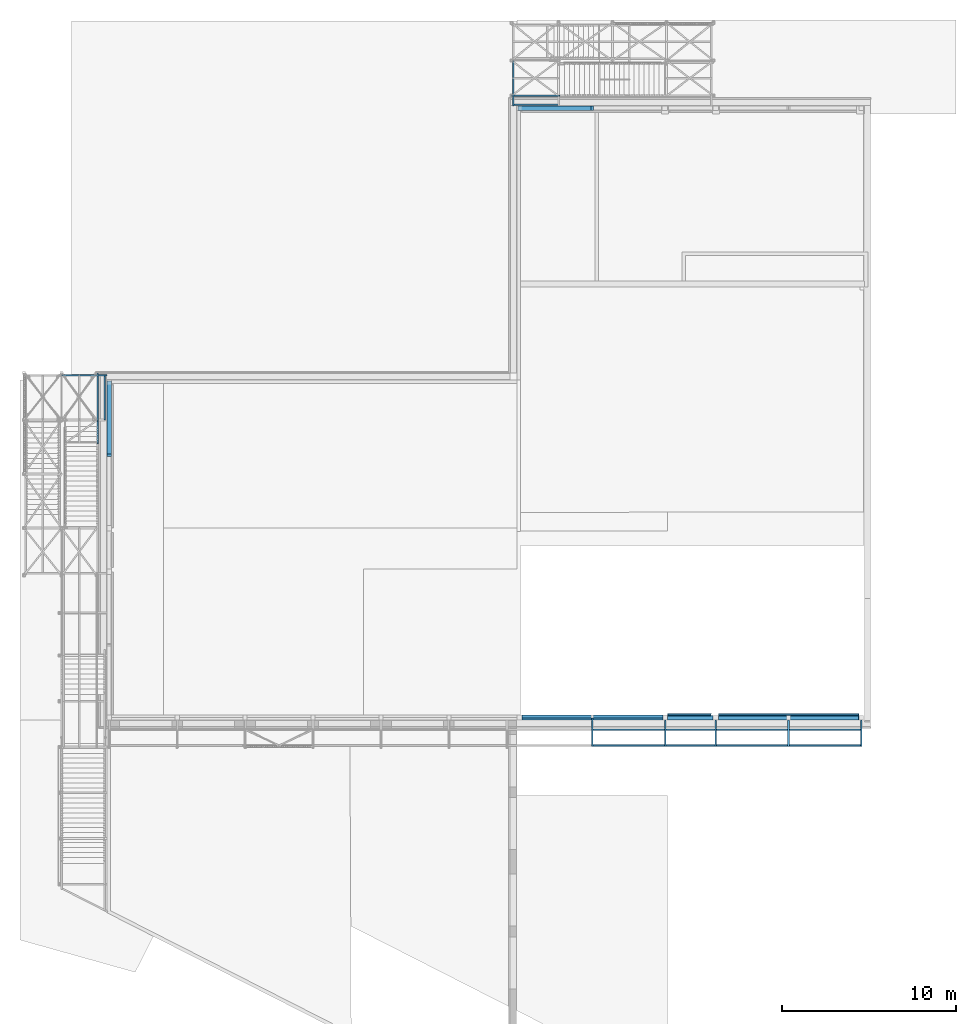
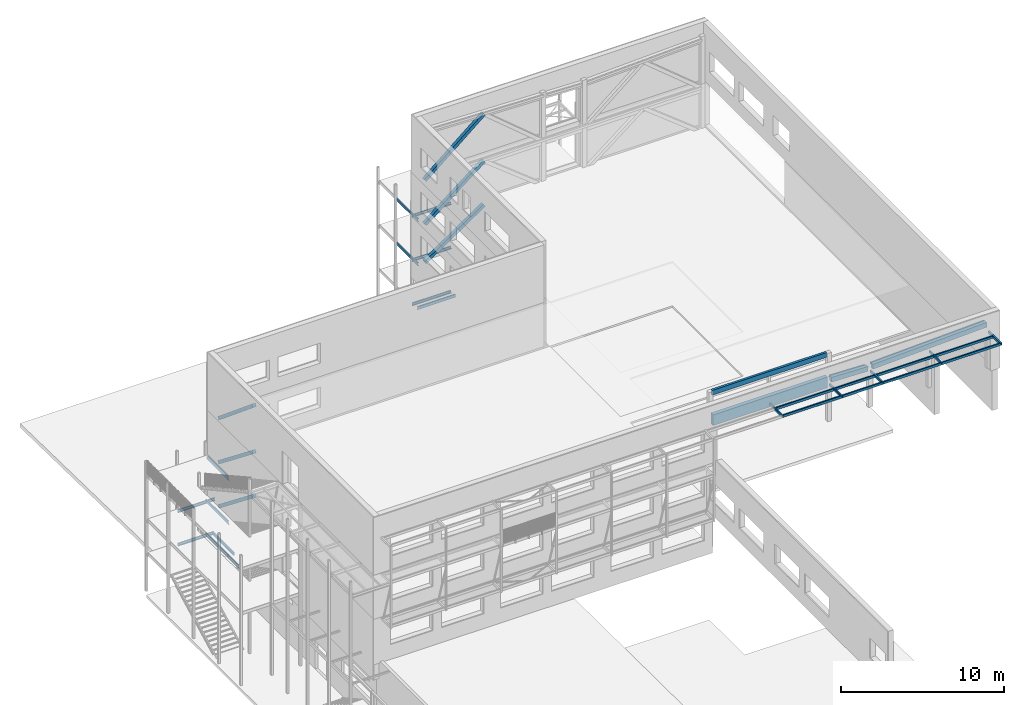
# One storey, part 29 of 78: 32 beams, 6 members, 38 elements without a shape of their own.
"""IFC2X3 building model written with IfcOpenShell, lengths in millimetres."""

from ifc_helpers import new_model, si_unit, frame, origin_with_axes, origin_2d_with_axis, place, context, subcontext, project, spatial, polyline, rectangle, hollow_rectangle, u_section, outline, extrude, boolean, clip, halfspace, material, type_object, element, aggregate, save


model = new_model("IFC2X3")

# Units and contexts
model_context = context("Model", 3, precision=1e-05, world=origin_with_axes())
body_context = subcontext(model_context, "Body", "Model", "MODEL_VIEW")
ifc_project = project(units=[si_unit("LENGTHUNIT", "METRE", prefix="MILLI"), si_unit("AREAUNIT", "SQUARE_METRE"), si_unit("VOLUMEUNIT", "CUBIC_METRE"), si_unit("MASSUNIT", "GRAM", prefix="KILO"), si_unit("TIMEUNIT", "SECOND"), si_unit("PLANEANGLEUNIT", "RADIAN"), si_unit("SOLIDANGLEUNIT", "STERADIAN"), si_unit("THERMODYNAMICTEMPERATUREUNIT", "DEGREE_CELSIUS"), si_unit("LUMINOUSINTENSITYUNIT", "LUMEN")], contexts=[model_context])

# Site, building, storey
site_placement = place(None, origin_with_axes())
site = spatial("IfcSite", under=ifc_project, at=site_placement, Name="Site", CompositionType="ELEMENT")
building_placement = place(site_placement, origin_with_axes())
building = spatial("IfcBuilding", under=site, at=building_placement, Name="Undefined", CompositionType="ELEMENT")
storey_placement = place(building_placement, origin_with_axes())
storey = spatial("IfcBuildingStorey", under=building, at=storey_placement, Name="Undefined", CompositionType="ELEMENT", Elevation=0.0)

# Assembly, beam
assembly_1_placement = place(storey_placement, origin_with_axes())
assembly_1 = element("IfcElementAssembly", 1, at=assembly_1_placement, inside=storey, Name="POUTRE", AssemblyPlace="NOTDEFINED", PredefinedType="RIGID_FRAME")
ifc_material_1 = material(Name="STEEL/S275JR")
beam_type_1 = type_object("IfcBeamType", Name="UPN220", PredefinedType="NOTDEFINED")
beam_1_placement = place(assembly_1_placement, frame((-7326.43, 28225.0, 149960.04), z_axis=(0.0, 0.0, -1.0), x_axis=(1.0, 0.0, 0.0)))
beam_1 = element("IfcBeam", 2, at=beam_1_placement, type_object=beam_type_1, material=ifc_material_1, Name="SOLIVE", ObjectType="UPN220", context=body_context, shape_type="SweptSolid", body=[
    extrude(u_section(Depth=220.0, FlangeWidth=80.0, WebThickness=9.0, FlangeThickness=12.5, FilletRadius=12.5, EdgeRadius=6.5, FlangeSlope=0.0798299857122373, at=origin_2d_with_axis()), frame((2685.0, 0.0, 0.0), z_axis=(-1.0, 0.0, 0.0), x_axis=(0.0, -1.0, 0.0)), (0.0, 0.0, 1.0), 2685.0),
])
aggregate(assembly_1, [beam_1])

assembly_2_placement = place(storey_placement, origin_with_axes())
assembly_2 = element("IfcElementAssembly", 3, at=assembly_2_placement, inside=storey, AssemblyPlace="NOTDEFINED", PredefinedType="RIGID_FRAME")
ifc_material_2 = material(Name="STEEL/S235JR")
beam_2_placement = place(assembly_2_placement, frame((-31142.8600000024, 10073.7142857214, 153260.039999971), z_axis=(0.0, 0.0, 1.0), x_axis=(0.0, 1.0, 0.0)))
beam_2 = element("IfcBeam", 4, at=beam_2_placement, type_object=beam_type_1, material=ifc_material_2, Name="LIMON", ObjectType="UPN220", context=body_context, shape_type="Clipping", body=[
    clip(extrude(u_section(Depth=220.0, FlangeWidth=80.0, WebThickness=9.0, FlangeThickness=12.5, FilletRadius=12.5, EdgeRadius=6.5, FlangeSlope=0.0798299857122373, at=origin_2d_with_axis()), frame((2734.28571428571, 0.0, 0.0), z_axis=(-1.0, 0.0, 0.0), x_axis=(0.0, -1.0, 0.0)), (0.0, 0.0, 1.0), 2791.31), halfspace(frame((-5.94641824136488e-06, 2.39502696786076e-07, 109.999999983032), z_axis=(0.968308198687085, 0.0, -0.249758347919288), x_axis=(0.0, 1.0, 0.0)), True)),
])
aggregate(assembly_2, [beam_2])

assembly_3_placement = place(storey_placement, origin_with_axes())
assembly_3 = element("IfcElementAssembly", 5, at=assembly_3_placement, inside=storey, AssemblyPlace="NOTDEFINED", PredefinedType="RIGID_FRAME")
beam_3_placement = place(assembly_3_placement, frame((-31142.8600000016, 10073.714285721, 156560.039999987), z_axis=(0.0, 0.0, 1.0), x_axis=(0.0, 1.0, 0.0)))
beam_3 = element("IfcBeam", 6, at=beam_3_placement, type_object=beam_type_1, material=ifc_material_2, Name="LIMON", ObjectType="UPN220", context=body_context, shape_type="CSG", body=[
    boolean("DIFFERENCE", boolean("DIFFERENCE", boolean("DIFFERENCE", boolean("DIFFERENCE", extrude(u_section(Depth=220.0, FlangeWidth=80.0, WebThickness=9.0, FlangeThickness=12.5, FilletRadius=12.5, EdgeRadius=6.5, FlangeSlope=0.0798299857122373, at=origin_2d_with_axis()), frame((2734.28571428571, 0.0, 0.0), z_axis=(-1.0, 0.0, 0.0), x_axis=(0.0, -1.0, 0.0)), (0.0, 0.0, 1.0), 2791.31), extrude(outline(polyline([(0.0, 0.0), (81.0, 0.0), (81.0, 42.5000000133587), (0.0, 42.5000000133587), (0.0, 0.0)])), frame((2650.28571427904, 50.0, -77.4999999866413), z_axis=(0.0, -1.0, 0.0), x_axis=(-1.0, 0.0, 0.0)), (0.0, 0.0, 1.0), 100.0)), extrude(outline(polyline([(0.0, 0.0), (81.0, 0.0), (81.0, 42.5000000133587), (0.0, 42.5000000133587), (0.0, 0.0)])), frame((2650.28571427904, -50.0, 77.5000000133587), z_axis=(0.0, 1.0, 0.0), x_axis=(-1.0, 0.0, 0.0)), (0.0, 0.0, 1.0), 100.0)), halfspace(frame((2640.28571427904, 0.0, 210.0), z_axis=(1.0, 0.0, 0.0), x_axis=(0.0, 1.0, 0.0)), False)), halfspace(frame((-5.94641824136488e-06, 2.39502696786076e-07, 109.999999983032), z_axis=(0.968308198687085, 0.0, -0.249758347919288), x_axis=(0.0, 1.0, 0.0)), True)),
])
aggregate(assembly_3, [beam_3])

assembly_4_placement = place(storey_placement, origin_with_axes())
assembly_4 = element("IfcElementAssembly", 7, at=assembly_4_placement, inside=storey, AssemblyPlace="NOTDEFINED", PredefinedType="RIGID_FRAME")
beam_4_placement = place(assembly_4_placement, frame((-7401.43000000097, 28722.9999999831, 149960.040000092), z_axis=(0.0, 0.0, 1.0), x_axis=(1.0, 0.0, 0.0)))
beam_4 = element("IfcBeam", 8, at=beam_4_placement, type_object=beam_type_1, material=ifc_material_2, Name="LIMON", ObjectType="UPN220", context=body_context, shape_type="Clipping", body=[
    clip(extrude(u_section(Depth=220.0, FlangeWidth=80.0, WebThickness=9.0, FlangeThickness=12.5, FilletRadius=12.5, EdgeRadius=6.5, FlangeSlope=0.0798299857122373, at=origin_2d_with_axis()), frame((2791.31463436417, 0.0, 0.0), z_axis=(-1.0, 0.0, 0.0), x_axis=(0.0, -1.0, 0.0)), (0.0, 0.0, 1.0), 2791.31), halfspace(frame((2734.28571450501, 1.4319084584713e-08, 109.999999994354), z_axis=(-0.968308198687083, 0.0, -0.249758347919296), x_axis=(0.0, -1.0, 0.0)), True)),
])
aggregate(assembly_4, [beam_4])

assembly_5_placement = place(storey_placement, origin_with_axes())
assembly_5 = element("IfcElementAssembly", 9, at=assembly_5_placement, inside=storey, AssemblyPlace="NOTDEFINED", PredefinedType="RIGID_FRAME")
beam_5_placement = place(assembly_5_placement, frame((-7401.43000000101, 28722.9999999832, 153260.040000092), z_axis=(0.0, 0.0, 1.0), x_axis=(1.0, 0.0, 0.0)))
beam_5 = element("IfcBeam", 10, at=beam_5_placement, type_object=beam_type_1, material=ifc_material_2, Name="LIMON", ObjectType="UPN220", context=body_context, shape_type="Clipping", body=[
    clip(extrude(u_section(Depth=220.0, FlangeWidth=80.0, WebThickness=9.0, FlangeThickness=12.5, FilletRadius=12.5, EdgeRadius=6.5, FlangeSlope=0.0798299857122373, at=origin_2d_with_axis()), frame((2791.31463436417, 0.0, 0.0), z_axis=(-1.0, 0.0, 0.0), x_axis=(0.0, -1.0, 0.0)), (0.0, 0.0, 1.0), 2791.31), halfspace(frame((2734.28571450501, 1.4319084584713e-08, 109.999999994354), z_axis=(-0.968308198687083, 0.0, -0.249758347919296), x_axis=(0.0, -1.0, 0.0)), True)),
])
aggregate(assembly_5, [beam_5])

assembly_6_placement = place(storey_placement, origin_with_axes())
assembly_6 = element("IfcElementAssembly", 11, at=assembly_6_placement, inside=storey, AssemblyPlace="NOTDEFINED", PredefinedType="RIGID_FRAME")
beam_6_placement = place(assembly_6_placement, frame((-7401.43000000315, 28722.9999999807, 156560.040000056), z_axis=(0.0, 0.0, 1.0), x_axis=(1.0, 0.0, 0.0)))
beam_6 = element("IfcBeam", 12, at=beam_6_placement, type_object=beam_type_1, material=ifc_material_2, Name="LIMON", ObjectType="UPN220", context=body_context, shape_type="Clipping", body=[
    clip(extrude(u_section(Depth=220.0, FlangeWidth=80.0, WebThickness=9.0, FlangeThickness=12.5, FilletRadius=12.5, EdgeRadius=6.5, FlangeSlope=0.0798299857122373, at=origin_2d_with_axis()), frame((2791.31463436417, 0.0, 0.0), z_axis=(-1.0, 0.0, 0.0), x_axis=(0.0, -1.0, 0.0)), (0.0, 0.0, 1.0), 2791.31), halfspace(frame((2734.28571450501, 1.4319084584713e-08, 109.999999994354), z_axis=(-0.968308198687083, 0.0, -0.249758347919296), x_axis=(0.0, -1.0, 0.0)), True)),
])
aggregate(assembly_6, [beam_6])

assembly_7_placement = place(storey_placement, origin_with_axes())
assembly_7 = element("IfcElementAssembly", 13, at=assembly_7_placement, inside=storey, Name="POUTRE", AssemblyPlace="NOTDEFINED", PredefinedType="RIGID_FRAME")
beam_7_placement = place(assembly_7_placement, frame((-7286.43, 28135.0, 156560.04), z_axis=(0.0, 0.0, 1.0), x_axis=(0.0, 1.0, 0.0)))
beam_7 = element("IfcBeam", 14, at=beam_7_placement, type_object=beam_type_1, material=ifc_material_1, Name="POUTRE", ObjectType="UPN220", context=body_context, shape_type="SweptSolid", body=[
    extrude(u_section(Depth=220.0, FlangeWidth=80.0, WebThickness=9.0, FlangeThickness=12.5, FilletRadius=12.5, EdgeRadius=6.5, FlangeSlope=0.0798299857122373, at=origin_2d_with_axis()), frame((2613.00000000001, 0.0, 0.0), z_axis=(-1.0, 0.0, 0.0), x_axis=(0.0, -1.0, 0.0)), (0.0, 0.0, 1.0), 2613.0),
])
aggregate(assembly_7, [beam_7])

assembly_8_placement = place(storey_placement, origin_with_axes())
assembly_8 = element("IfcElementAssembly", 15, at=assembly_8_placement, inside=storey, Name="POUTRE", AssemblyPlace="NOTDEFINED", PredefinedType="RIGID_FRAME")
beam_8_placement = place(assembly_8_placement, frame((-7286.43, 28135.0, 153260.04), z_axis=(0.0, 0.0, 1.0), x_axis=(0.0, 1.0, 0.0)))
beam_8 = element("IfcBeam", 16, at=beam_8_placement, type_object=beam_type_1, material=ifc_material_1, Name="POUTRE", ObjectType="UPN220", context=body_context, shape_type="SweptSolid", body=[
    extrude(u_section(Depth=220.0, FlangeWidth=80.0, WebThickness=9.0, FlangeThickness=12.5, FilletRadius=12.5, EdgeRadius=6.5, FlangeSlope=0.0798299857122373, at=origin_2d_with_axis()), frame((2613.00000000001, 0.0, 0.0), z_axis=(-1.0, 0.0, 0.0), x_axis=(0.0, -1.0, 0.0)), (0.0, 0.0, 1.0), 2613.0),
])
aggregate(assembly_8, [beam_8])

assembly_9_placement = place(storey_placement, origin_with_axes())
assembly_9 = element("IfcElementAssembly", 17, at=assembly_9_placement, inside=storey, AssemblyPlace="NOTDEFINED", PredefinedType="RIGID_FRAME")
beam_9_placement = place(assembly_9_placement, frame((-30736.43, 12733.0, 150760.04), z_axis=(0.0, 0.0, 1.0), x_axis=(0.0, -1.0, 0.0)))
beam_9 = element("IfcBeam", 18, at=beam_9_placement, type_object=beam_type_1, material=ifc_material_1, Name="SOLIVE", ObjectType="UPN220", context=body_context, shape_type="SweptSolid", body=[
    extrude(u_section(Depth=220.0, FlangeWidth=80.0, WebThickness=9.0, FlangeThickness=12.5, FilletRadius=12.5, EdgeRadius=6.5, FlangeSlope=0.0798299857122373, at=origin_2d_with_axis()), frame((2625.0, 0.0, 0.0), z_axis=(-1.0, 0.0, 0.0), x_axis=(0.0, -1.0, 0.0)), (0.0, 0.0, 1.0), 2625.0),
])
aggregate(assembly_9, [beam_9])

assembly_10_placement = place(storey_placement, origin_with_axes())
assembly_10 = element("IfcElementAssembly", 19, at=assembly_10_placement, inside=storey, AssemblyPlace="NOTDEFINED", PredefinedType="RIGID_FRAME")
beam_10_placement = place(assembly_10_placement, frame((-31142.8599999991, 8800.84345047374, 150760.040107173), z_axis=(0.0, 0.0, 1.0), x_axis=(0.0, 1.0, 0.0)))
beam_10 = element("IfcBeam", 20, at=beam_10_placement, type_object=beam_type_1, material=ifc_material_2, Name="LIMON", ObjectType="UPN220", context=body_context, shape_type="Clipping", body=[
    clip(extrude(u_section(Depth=220.0, FlangeWidth=80.0, WebThickness=9.0, FlangeThickness=12.5, FilletRadius=12.5, EdgeRadius=6.5, FlangeSlope=0.0798299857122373, at=origin_2d_with_axis()), frame((1299.15654952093, 0.0, 0.0), z_axis=(-1.0, 0.0, 0.0), x_axis=(0.0, -1.0, 0.0)), (0.0, 0.0, 1.0), 1354.34), halfspace(frame((-5.94641824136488e-06, 2.39502696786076e-07, 109.999999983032), z_axis=(0.970238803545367, 0.0, -0.242150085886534), x_axis=(0.0, 1.0, 0.0)), True)),
])
aggregate(assembly_10, [beam_10])

assembly_11_placement = place(storey_placement, origin_with_axes())
assembly_11 = element("IfcElementAssembly", 21, at=assembly_11_placement, inside=storey, AssemblyPlace="NOTDEFINED", PredefinedType="RIGID_FRAME")
beam_11_placement = place(assembly_11_placement, frame((-31142.86, 12808.0, 150760.04), z_axis=(0.0, 0.0, -1.0), x_axis=(0.0, -1.0, 0.0)))
beam_11 = element("IfcBeam", 22, at=beam_11_placement, type_object=beam_type_1, material=ifc_material_1, Name="SOLIVE", ObjectType="UPN220", context=body_context, shape_type="SweptSolid", body=[
    extrude(u_section(Depth=220.0, FlangeWidth=80.0, WebThickness=9.0, FlangeThickness=12.5, FilletRadius=12.5, EdgeRadius=6.5, FlangeSlope=0.0798299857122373, at=origin_2d_with_axis()), frame((2699.99999999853, 0.0, 0.0), z_axis=(-1.0, 0.0, 0.0), x_axis=(0.0, -1.0, 0.0)), (0.0, 0.0, 1.0), 2700.0),
])
aggregate(assembly_11, [beam_11])

assembly_12_placement = place(storey_placement, origin_with_axes())
assembly_12 = element("IfcElementAssembly", 23, at=assembly_12_placement, inside=storey, AssemblyPlace="NOTDEFINED", PredefinedType="RIGID_FRAME")
beam_12_placement = place(assembly_12_placement, frame((-33216.43, 12693.0, 150760.04), z_axis=(0.0, 0.0, 1.0), x_axis=(1.0, 0.0, 0.0)))
beam_12 = element("IfcBeam", 24, at=beam_12_placement, type_object=beam_type_1, material=ifc_material_1, Name="SOLIVE", ObjectType="UPN220", context=body_context, shape_type="SweptSolid", body=[
    extrude(u_section(Depth=220.0, FlangeWidth=80.0, WebThickness=9.0, FlangeThickness=12.5, FilletRadius=12.5, EdgeRadius=6.5, FlangeSlope=0.0798299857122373, at=origin_2d_with_axis()), frame((2486.43, 0.0, 0.0), z_axis=(-1.0, 0.0, 0.0), x_axis=(0.0, -1.0, 0.0)), (0.0, 0.0, 1.0), 2486.43),
])
aggregate(assembly_12, [beam_12])

assembly_13_placement = place(storey_placement, origin_with_axes())
assembly_13 = element("IfcElementAssembly", 25, at=assembly_13_placement, inside=storey, Name="STAB", AssemblyPlace="NOTDEFINED", PredefinedType="RIGID_FRAME")
beam_13_placement = place(assembly_13_placement, frame((-33216.43, 12693.0, 153260.04), z_axis=(0.0, 0.0, 1.0), x_axis=(1.0, 0.0, 0.0)))
beam_13 = element("IfcBeam", 26, at=beam_13_placement, type_object=beam_type_1, material=ifc_material_1, Name="SOLIVE", ObjectType="UPN220", context=body_context, shape_type="SweptSolid", body=[
    extrude(u_section(Depth=220.0, FlangeWidth=80.0, WebThickness=9.0, FlangeThickness=12.5, FilletRadius=12.5, EdgeRadius=6.5, FlangeSlope=0.0798299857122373, at=origin_2d_with_axis()), frame((2612.98999999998, 0.0, 0.0), z_axis=(-1.0, 0.0, 0.0), x_axis=(0.0, -1.0, 0.0)), (0.0, 0.0, 1.0), 2612.99),
])
aggregate(assembly_13, [beam_13])

assembly_14_placement = place(storey_placement, origin_with_axes())
assembly_14 = element("IfcElementAssembly", 27, at=assembly_14_placement, inside=storey, Name="POUTRE", AssemblyPlace="NOTDEFINED", PredefinedType="NOTDEFINED")
ifc_material_3 = material(Name="TIMBER/CHENE")
beam_type_2 = type_object("IfcBeamType", Name="160*100", PredefinedType="NOTDEFINED")
beam_14_placement = place(assembly_14_placement, frame((4064.09190886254, -6804.99981568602, 162912.822699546), z_axis=(0.0309663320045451, 0.0, 0.999520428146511), x_axis=(-0.999520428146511, 0.0, 0.0309663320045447)))
beam_14 = element("IfcBeam", 28, at=beam_14_placement, type_object=beam_type_2, material=ifc_material_3, Name="POUTRE", ObjectType="160*100", context=body_context, shape_type="SweptSolid", body=[
    extrude(rectangle(XDim=100.0, YDim=160.0, at=origin_2d_with_axis()), frame((2498.83391485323, 9.09494701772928e-13, 0.0), z_axis=(-1.0, 0.0, 0.0), x_axis=(0.0, -1.0, 0.0)), (0.0, 0.0, 1.0), 2498.83),
])
aggregate(assembly_14, [beam_14])

assembly_15_placement = place(storey_placement, origin_with_axes())
assembly_15 = element("IfcElementAssembly", 29, at=assembly_15_placement, inside=storey, Name="POUTRE", AssemblyPlace="NOTDEFINED", PredefinedType="NOTDEFINED")
beam_15_placement = place(assembly_15_placement, frame((12549.8403474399, -6804.99963760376, 163266.822603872), z_axis=(-0.0409325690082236, 0.0, 0.999161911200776), x_axis=(-0.999161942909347, 0.0, -0.0409317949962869)))
beam_15 = element("IfcBeam", 30, at=beam_15_placement, type_object=beam_type_2, material=ifc_material_3, Name="POUTRE", ObjectType="160*100", context=body_context, shape_type="SweptSolid", body=[
    extrude(rectangle(XDim=100.0, YDim=160.0, at=origin_2d_with_axis()), frame((8060.00028475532, -9.09494701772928e-13, 0.0), z_axis=(-1.0, 0.0, 0.0), x_axis=(0.0, -1.0, 0.0)), (0.0, 0.0, 1.0), 8060.0),
])
aggregate(assembly_15, [beam_15])

assembly_16_placement = place(storey_placement, origin_with_axes())
assembly_16 = element("IfcElementAssembly", 31, at=assembly_16_placement, inside=storey, Name="POUTRE", AssemblyPlace="NOTDEFINED", PredefinedType="NOTDEFINED")
beam_type_3 = type_object("IfcBeamType", Name="360*240", PredefinedType="NOTDEFINED")
beam_16_placement = place(assembly_16_placement, frame((4159.74622207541, -6975.00192642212, 162809.807898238), z_axis=(0.0309844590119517, 0.0, 0.999519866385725), x_axis=(-0.999519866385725, 0.0, 0.0309844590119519)))
beam_16 = element("IfcBeam", 32, at=beam_16_placement, type_object=beam_type_3, material=ifc_material_3, Name="POUTRE", ObjectType="360*240", context=body_context, shape_type="SweptSolid", body=[
    extrude(rectangle(XDim=240.0, YDim=360.0, at=origin_2d_with_axis()), frame((2589.99909006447, 0.0, 0.0), z_axis=(-1.0, 0.0, 0.0), x_axis=(0.0, -1.0, 0.0)), (0.0, 0.0, 1.0), 2590.0),
])
aggregate(assembly_16, [beam_16])

assembly_17_placement = place(storey_placement, origin_with_axes())
assembly_17 = element("IfcElementAssembly", 33, at=assembly_17_placement, inside=storey, Name="POUTRE", AssemblyPlace="NOTDEFINED", PredefinedType="NOTDEFINED")
beam_17_placement = place(assembly_17_placement, frame((12547.1815850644, -6975.00174833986, 163166.642055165), z_axis=(-0.0409325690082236, 0.0, 0.999161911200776), x_axis=(-0.999161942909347, 0.0, -0.0409317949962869)))
beam_17 = element("IfcBeam", 34, at=beam_17_placement, type_object=beam_type_3, material=ifc_material_3, Name="POUTRE", ObjectType="360*240", context=body_context, shape_type="SweptSolid", body=[
    extrude(rectangle(XDim=240.0, YDim=360.0, at=origin_2d_with_axis()), frame((8060.00028475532, -9.09494701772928e-13, 0.0), z_axis=(-1.0, 0.0, 0.0), x_axis=(0.0, -1.0, 0.0)), (0.0, 0.0, 1.0), 8060.0),
])
aggregate(assembly_17, [beam_17])

# Assembly, member
assembly_18_placement = place(storey_placement, origin_with_axes())
assembly_18 = element("IfcElementAssembly", 35, at=assembly_18_placement, inside=storey, Name="POUTRE", AssemblyPlace="NOTDEFINED", PredefinedType="NOTDEFINED")
member_type = type_object("IfcMemberType", Name="240*240", PredefinedType="NOTDEFINED")
member_1_placement = place(assembly_18_placement, frame((-6943.43269853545, 28014.998550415, 153400.040428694), z_axis=(-0.561985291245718, 0.0, 0.827147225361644), x_axis=(0.827147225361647, 0.0, 0.561985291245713)))
member_1 = element("IfcMember", 36, at=member_1_placement, type_object=member_type, material=ifc_material_3, Name="POUTRE", ObjectType="240*240", context=body_context, shape_type="SweptSolid", body=[
    extrude(rectangle(XDim=240.0, YDim=240.0, at=origin_2d_with_axis()), frame((5053.51426908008, 0.0, 2.80526394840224e-13), z_axis=(-1.0, 0.0, 0.0), x_axis=(0.0, -1.0, 0.0)), (0.0, 0.0, 1.0), 5053.51),
])
aggregate(assembly_18, [member_1])

assembly_19_placement = place(storey_placement, origin_with_axes())
assembly_19 = element("IfcElementAssembly", 37, at=assembly_19_placement, inside=storey, Name="POUTRE", AssemblyPlace="NOTDEFINED", PredefinedType="NOTDEFINED")
member_2_placement = place(assembly_19_placement, frame((-6943.43347349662, 28014.998550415, 156240.042588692), z_axis=(-0.6196443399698, 0.0, 0.784882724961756), x_axis=(0.784882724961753, 0.0, 0.619644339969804)))
member_2 = element("IfcMember", 38, at=member_2_placement, type_object=member_type, material=ifc_material_3, Name="POUTRE", ObjectType="240*240", context=body_context, shape_type="SweptSolid", body=[
    extrude(rectangle(XDim=240.0, YDim=240.0, at=origin_2d_with_axis()), frame((5325.63677903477, -3.63797880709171e-12, 0.0), z_axis=(-1.0, 0.0, 0.0), x_axis=(0.0, -1.0, 0.0)), (0.0, 0.0, 1.0), 5325.64),
])
aggregate(assembly_19, [member_2])

assembly_20_placement = place(storey_placement, origin_with_axes())
assembly_20 = element("IfcElementAssembly", 39, at=assembly_20_placement, inside=storey, Name="POUTRE", AssemblyPlace="NOTDEFINED", PredefinedType="NOTDEFINED")
member_3_placement = place(assembly_20_placement, frame((-6943.43287765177, 28014.9986327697, 159540.040192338), z_axis=(-0.642457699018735, 0.0, 0.766321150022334), x_axis=(0.766321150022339, 0.0, 0.642457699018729)))
member_3 = element("IfcMember", 40, at=member_3_placement, type_object=member_type, material=ifc_material_3, Name="POUTRE", ObjectType="240*240", context=body_context, shape_type="SweptSolid", body=[
    extrude(rectangle(XDim=240.0, YDim=240.0, at=origin_2d_with_axis()), frame((5454.63257057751, -3.63797880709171e-12, 0.0), z_axis=(-1.0, 0.0, 0.0), x_axis=(0.0, -1.0, 0.0)), (0.0, 0.0, 1.0), 5454.63),
])
aggregate(assembly_20, [member_3])

assembly_21_placement = place(storey_placement, origin_with_axes())
assembly_21 = element("IfcElementAssembly", 41, at=assembly_21_placement, inside=storey, Name="POUTRE", AssemblyPlace="NOTDEFINED", PredefinedType="NOTDEFINED")
member_4_placement = place(assembly_21_placement, frame((-30483.4327932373, 8094.99774074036, 156240.043101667), z_axis=(0.0, 0.619644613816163, 0.784882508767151), x_axis=(0.0, 0.784882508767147, -0.619644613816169)))
member_4 = element("IfcMember", 42, at=member_4_placement, type_object=member_type, material=ifc_material_3, Name="POUTRE", ObjectType="240*240", context=body_context, shape_type="SweptSolid", body=[
    extrude(rectangle(XDim=240.0, YDim=240.0, at=origin_2d_with_axis()), frame((5325.63824287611, 0.0, 0.0), z_axis=(-1.0, 0.0, 0.0), x_axis=(0.0, -1.0, 0.0)), (0.0, 0.0, 1.0), 5325.64),
])
aggregate(assembly_21, [member_4])

assembly_22_placement = place(storey_placement, origin_with_axes())
assembly_22 = element("IfcElementAssembly", 43, at=assembly_22_placement, inside=storey, Name="POUTRE", AssemblyPlace="NOTDEFINED", PredefinedType="NOTDEFINED")
member_5_placement = place(assembly_22_placement, frame((-30483.4327932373, 8094.99774039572, 159540.046154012), z_axis=(0.0, 0.619644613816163, 0.784882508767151), x_axis=(0.0, 0.784882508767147, -0.619644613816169)))
member_5 = element("IfcMember", 44, at=member_5_placement, type_object=member_type, material=ifc_material_3, Name="POUTRE", ObjectType="240*240", context=body_context, shape_type="SweptSolid", body=[
    extrude(rectangle(XDim=240.0, YDim=240.0, at=origin_2d_with_axis()), frame((5325.63824287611, 0.0, 0.0), z_axis=(-1.0, 0.0, 0.0), x_axis=(0.0, -1.0, 0.0)), (0.0, 0.0, 1.0), 5325.64),
])
aggregate(assembly_22, [member_5])

assembly_23_placement = place(storey_placement, origin_with_axes())
assembly_23 = element("IfcElementAssembly", 45, at=assembly_23_placement, inside=storey, Name="POUTRE", AssemblyPlace="NOTDEFINED", PredefinedType="NOTDEFINED")
member_6_placement = place(assembly_23_placement, frame((-30483.4327932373, 8095.00297216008, 163005.167372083), z_axis=(0.0, 0.638203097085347, 0.769868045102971), x_axis=(0.0, 0.769868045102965, -0.638203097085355)))
member_6 = element("IfcMember", 46, at=member_6_placement, type_object=member_type, material=ifc_material_3, Name="POUTRE", ObjectType="240*240", context=body_context, shape_type="SweptSolid", body=[
    extrude(rectangle(XDim=240.0, YDim=240.0, at=origin_2d_with_axis()), frame((5429.49732339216, 0.0, 0.0), z_axis=(-1.0, 0.0, 0.0), x_axis=(0.0, -1.0, 0.0)), (0.0, 0.0, 1.0), 5429.5),
])
aggregate(assembly_23, [member_6])

# Assembly, beam
assembly_24_placement = place(storey_placement, origin_with_axes())
assembly_24 = element("IfcElementAssembly", 47, at=assembly_24_placement, inside=storey, Name="POUTRE", AssemblyPlace="NOTDEFINED", PredefinedType="NOTDEFINED")
beam_type_4 = type_object("IfcBeamType", Name="360*160", PredefinedType="NOTDEFINED")
beam_18_placement = place(assembly_24_placement, frame((1296.56876735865, -6895.00101089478, 164780.051879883), z_axis=(-1.23500000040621e-06, 0.0, 0.999999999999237), x_axis=(-0.999999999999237, 0.0, -1.23500000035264e-06)))
beam_18 = element("IfcBeam", 48, at=beam_18_placement, type_object=beam_type_4, material=ifc_material_3, Name="POUTRE", ObjectType="360*160", context=body_context, shape_type="SweptSolid", body=[
    extrude(rectangle(XDim=160.0, YDim=360.0, at=origin_2d_with_axis()), frame((8100.00068665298, -9.09494701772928e-13, 0.0), z_axis=(-1.0, 0.0, 0.0), x_axis=(0.0, -1.0, 0.0)), (0.0, 0.0, 1.0), 8100.0),
])
aggregate(assembly_24, [beam_18])

assembly_25_placement = place(storey_placement, origin_with_axes())
assembly_25 = element("IfcElementAssembly", 49, at=assembly_25_placement, inside=storey, Name="POUTRE", AssemblyPlace="NOTDEFINED", PredefinedType="NOTDEFINED")
beam_type_5 = type_object("IfcBeamType", Name="800*280", PredefinedType="NOTDEFINED")
beam_19_placement = place(assembly_25_placement, frame((1296.5684959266, -6955.00053405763, 162800.05493164), z_axis=(-1.23500000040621e-06, 0.0, 0.999999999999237), x_axis=(-0.999999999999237, 0.0, -1.23500000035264e-06)))
beam_19 = element("IfcBeam", 50, at=beam_19_placement, type_object=beam_type_5, material=ifc_material_3, Name="POUTRE", ObjectType="800*280", context=body_context, shape_type="SweptSolid", body=[
    extrude(rectangle(XDim=280.0, YDim=800.0, at=origin_2d_with_axis()), frame((8100.00068665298, -9.09494701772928e-13, 0.0), z_axis=(-1.0, 0.0, 0.0), x_axis=(0.0, -1.0, 0.0)), (0.0, 0.0, 1.0), 8100.0),
])
aggregate(assembly_25, [beam_19])

assembly_26_placement = place(storey_placement, origin_with_axes())
assembly_26 = element("IfcElementAssembly", 51, at=assembly_26_placement, inside=storey, AssemblyPlace="NOTDEFINED", PredefinedType="RIGID_FRAME")
beam_type_6 = type_object("IfcBeamType", Name="TUBE-R-180*100*4", PredefinedType="NOTDEFINED")
beam_20_placement = place(assembly_26_placement, frame((8506.56999999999, -7663.00047683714, 162590.054194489), z_axis=(0.0, 0.0, 1.0), x_axis=(1.0, 0.0, 0.0)))
beam_20 = element("IfcBeam", 52, at=beam_20_placement, type_object=beam_type_6, material=ifc_material_1, Name="SOLIVE", ObjectType="TUBE-R-180*100*4", context=body_context, shape_type="SweptSolid", body=[
    extrude(hollow_rectangle(XDim=100.0, YDim=180.0, WallThickness=4.0, InnerFilletRadius=4.0, OuterFilletRadius=8.0, at=origin_2d_with_axis()), frame((4179.99999999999, 0.0, 0.0), z_axis=(-1.0, 0.0, 0.0), x_axis=(0.0, -1.0, 0.0)), (0.0, 0.0, 1.0), 4180.0),
])
aggregate(assembly_26, [beam_20])

assembly_27_placement = place(storey_placement, origin_with_axes())
assembly_27 = element("IfcElementAssembly", 53, at=assembly_27_placement, inside=storey, AssemblyPlace="NOTDEFINED", PredefinedType="RIGID_FRAME")
beam_21_placement = place(assembly_27_placement, frame((8506.56999999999, -8563.00047683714, 162590.054194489), z_axis=(0.0, 0.0, 1.0), x_axis=(1.0, 0.0, 0.0)))
beam_21 = element("IfcBeam", 54, at=beam_21_placement, type_object=beam_type_6, material=ifc_material_1, Name="SOLIVE", ObjectType="TUBE-R-180*100*4", context=body_context, shape_type="SweptSolid", body=[
    extrude(hollow_rectangle(XDim=100.0, YDim=180.0, WallThickness=4.0, InnerFilletRadius=4.0, OuterFilletRadius=8.0, at=origin_2d_with_axis()), frame((4179.99999999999, 0.0, 0.0), z_axis=(-1.0, 0.0, 0.0), x_axis=(0.0, -1.0, 0.0)), (0.0, 0.0, 1.0), 4180.0),
])
aggregate(assembly_27, [beam_21])

assembly_28_placement = place(storey_placement, origin_with_axes())
assembly_28 = element("IfcElementAssembly", 55, at=assembly_28_placement, inside=storey, Name="CONSOLE", AssemblyPlace="NOTDEFINED", PredefinedType="RIGID_FRAME")
beam_22_placement = place(assembly_28_placement, frame((12686.57, -8613.00059288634, 162590.049999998), z_axis=(0.0, 6.5880000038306e-06, 0.999999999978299), x_axis=(0.0, 0.999999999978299, -6.58800000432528e-06)))
beam_22 = element("IfcBeam", 56, at=beam_22_placement, type_object=beam_type_6, material=ifc_material_1, Name="CONSOLE", ObjectType="TUBE-R-180*100*4", context=body_context, shape_type="SweptSolid", body=[
    extrude(hollow_rectangle(XDim=100.0, YDim=180.0, WallThickness=4.0, InnerFilletRadius=4.0, OuterFilletRadius=8.0, at=origin_2d_with_axis()), frame((1518.0000000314, 0.0, -1.28579601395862e-18), z_axis=(-1.0, 0.0, 0.0), x_axis=(0.0, -1.0, 0.0)), (0.0, 0.0, 1.0), 1518.0),
])
aggregate(assembly_28, [beam_22])

assembly_29_placement = place(storey_placement, origin_with_axes())
assembly_29 = element("IfcElementAssembly", 57, at=assembly_29_placement, inside=storey, AssemblyPlace="NOTDEFINED", PredefinedType="RIGID_FRAME")
beam_23_placement = place(assembly_29_placement, frame((4326.56999999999, -7663.00047683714, 162590.054194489), z_axis=(0.0, 0.0, 1.0), x_axis=(1.0, 0.0, 0.0)))
beam_23 = element("IfcBeam", 58, at=beam_23_placement, type_object=beam_type_6, material=ifc_material_1, Name="SOLIVE", ObjectType="TUBE-R-180*100*4", context=body_context, shape_type="SweptSolid", body=[
    extrude(hollow_rectangle(XDim=100.0, YDim=180.0, WallThickness=4.0, InnerFilletRadius=4.0, OuterFilletRadius=8.0, at=origin_2d_with_axis()), frame((4179.99999999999, 0.0, 0.0), z_axis=(-1.0, 0.0, 0.0), x_axis=(0.0, -1.0, 0.0)), (0.0, 0.0, 1.0), 4180.0),
])
aggregate(assembly_29, [beam_23])

assembly_30_placement = place(storey_placement, origin_with_axes())
assembly_30 = element("IfcElementAssembly", 59, at=assembly_30_placement, inside=storey, AssemblyPlace="NOTDEFINED", PredefinedType="RIGID_FRAME")
beam_24_placement = place(assembly_30_placement, frame((4326.56999999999, -8563.00047683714, 162590.054194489), z_axis=(0.0, 0.0, 1.0), x_axis=(1.0, 0.0, 0.0)))
beam_24 = element("IfcBeam", 60, at=beam_24_placement, type_object=beam_type_6, material=ifc_material_1, Name="SOLIVE", ObjectType="TUBE-R-180*100*4", context=body_context, shape_type="SweptSolid", body=[
    extrude(hollow_rectangle(XDim=100.0, YDim=180.0, WallThickness=4.0, InnerFilletRadius=4.0, OuterFilletRadius=8.0, at=origin_2d_with_axis()), frame((4179.99999999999, 0.0, 0.0), z_axis=(-1.0, 0.0, 0.0), x_axis=(0.0, -1.0, 0.0)), (0.0, 0.0, 1.0), 4180.0),
])
aggregate(assembly_30, [beam_24])

assembly_31_placement = place(storey_placement, origin_with_axes())
assembly_31 = element("IfcElementAssembly", 61, at=assembly_31_placement, inside=storey, Name="CONSOLE", AssemblyPlace="NOTDEFINED", PredefinedType="RIGID_FRAME")
beam_25_placement = place(assembly_31_placement, frame((8506.57, -8613.00059288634, 162590.049999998), z_axis=(0.0, 6.5880000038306e-06, 0.999999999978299), x_axis=(0.0, 0.999999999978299, -6.58800000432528e-06)))
beam_25 = element("IfcBeam", 62, at=beam_25_placement, type_object=beam_type_6, material=ifc_material_1, Name="CONSOLE", ObjectType="TUBE-R-180*100*4", context=body_context, shape_type="SweptSolid", body=[
    extrude(hollow_rectangle(XDim=100.0, YDim=180.0, WallThickness=4.0, InnerFilletRadius=4.0, OuterFilletRadius=8.0, at=origin_2d_with_axis()), frame((1518.0000000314, 0.0, -1.28579601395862e-18), z_axis=(-1.0, 0.0, 0.0), x_axis=(0.0, -1.0, 0.0)), (0.0, 0.0, 1.0), 1518.0),
])
aggregate(assembly_31, [beam_25])

assembly_32_placement = place(storey_placement, origin_with_axes())
assembly_32 = element("IfcElementAssembly", 63, at=assembly_32_placement, inside=storey, AssemblyPlace="NOTDEFINED", PredefinedType="RIGID_FRAME")
beam_26_placement = place(assembly_32_placement, frame((1436.57, -7663.00047683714, 162590.054194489), z_axis=(0.0, 0.0, 1.0), x_axis=(1.0, 0.0, 0.0)))
beam_26 = element("IfcBeam", 64, at=beam_26_placement, type_object=beam_type_6, material=ifc_material_1, Name="SOLIVE", ObjectType="TUBE-R-180*100*4", context=body_context, shape_type="SweptSolid", body=[
    extrude(hollow_rectangle(XDim=100.0, YDim=180.0, WallThickness=4.0, InnerFilletRadius=4.0, OuterFilletRadius=8.0, at=origin_2d_with_axis()), frame((2889.99999999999, 0.0, 0.0), z_axis=(-1.0, 0.0, 0.0), x_axis=(0.0, -1.0, 0.0)), (0.0, 0.0, 1.0), 2890.0),
])
aggregate(assembly_32, [beam_26])

assembly_33_placement = place(storey_placement, origin_with_axes())
assembly_33 = element("IfcElementAssembly", 65, at=assembly_33_placement, inside=storey, AssemblyPlace="NOTDEFINED", PredefinedType="RIGID_FRAME")
beam_27_placement = place(assembly_33_placement, frame((1436.57, -8563.00047683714, 162590.054194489), z_axis=(0.0, 0.0, 1.0), x_axis=(1.0, 0.0, 0.0)))
beam_27 = element("IfcBeam", 66, at=beam_27_placement, type_object=beam_type_6, material=ifc_material_1, Name="SOLIVE", ObjectType="TUBE-R-180*100*4", context=body_context, shape_type="SweptSolid", body=[
    extrude(hollow_rectangle(XDim=100.0, YDim=180.0, WallThickness=4.0, InnerFilletRadius=4.0, OuterFilletRadius=8.0, at=origin_2d_with_axis()), frame((2889.99999999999, 0.0, 0.0), z_axis=(-1.0, 0.0, 0.0), x_axis=(0.0, -1.0, 0.0)), (0.0, 0.0, 1.0), 2890.0),
])
aggregate(assembly_33, [beam_27])

assembly_34_placement = place(storey_placement, origin_with_axes())
assembly_34 = element("IfcElementAssembly", 67, at=assembly_34_placement, inside=storey, Name="CONSOLE", AssemblyPlace="NOTDEFINED", PredefinedType="RIGID_FRAME")
beam_28_placement = place(assembly_34_placement, frame((4326.57, -8613.00059288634, 162590.049999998), z_axis=(0.0, 6.5880000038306e-06, 0.999999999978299), x_axis=(0.0, 0.999999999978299, -6.58800000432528e-06)))
beam_28 = element("IfcBeam", 68, at=beam_28_placement, type_object=beam_type_6, material=ifc_material_1, Name="CONSOLE", ObjectType="TUBE-R-180*100*4", context=body_context, shape_type="SweptSolid", body=[
    extrude(hollow_rectangle(XDim=100.0, YDim=180.0, WallThickness=4.0, InnerFilletRadius=4.0, OuterFilletRadius=8.0, at=origin_2d_with_axis()), frame((1518.0000000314, 0.0, -1.28579601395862e-18), z_axis=(-1.0, 0.0, 0.0), x_axis=(0.0, -1.0, 0.0)), (0.0, 0.0, 1.0), 1518.0),
])
aggregate(assembly_34, [beam_28])

assembly_35_placement = place(storey_placement, origin_with_axes())
assembly_35 = element("IfcElementAssembly", 69, at=assembly_35_placement, inside=storey, AssemblyPlace="NOTDEFINED", PredefinedType="RIGID_FRAME")
beam_29_placement = place(assembly_35_placement, frame((-2753.43, -7663.00047683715, 162590.054194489), z_axis=(0.0, 0.0, 1.0), x_axis=(1.0, 0.0, 0.0)))
beam_29 = element("IfcBeam", 70, at=beam_29_placement, type_object=beam_type_6, material=ifc_material_1, Name="SOLIVE", ObjectType="TUBE-R-180*100*4", context=body_context, shape_type="SweptSolid", body=[
    extrude(hollow_rectangle(XDim=100.0, YDim=180.0, WallThickness=4.0, InnerFilletRadius=4.0, OuterFilletRadius=8.0, at=origin_2d_with_axis()), frame((4189.99999999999, 0.0, 0.0), z_axis=(-1.0, 0.0, 0.0), x_axis=(0.0, -1.0, 0.0)), (0.0, 0.0, 1.0), 4190.0),
])
aggregate(assembly_35, [beam_29])

assembly_36_placement = place(storey_placement, origin_with_axes())
assembly_36 = element("IfcElementAssembly", 71, at=assembly_36_placement, inside=storey, AssemblyPlace="NOTDEFINED", PredefinedType="RIGID_FRAME")
beam_30_placement = place(assembly_36_placement, frame((-2753.43, -8563.00047683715, 162590.054194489), z_axis=(0.0, 0.0, 1.0), x_axis=(1.0, 0.0, 0.0)))
beam_30 = element("IfcBeam", 72, at=beam_30_placement, type_object=beam_type_6, material=ifc_material_1, Name="SOLIVE", ObjectType="TUBE-R-180*100*4", context=body_context, shape_type="SweptSolid", body=[
    extrude(hollow_rectangle(XDim=100.0, YDim=180.0, WallThickness=4.0, InnerFilletRadius=4.0, OuterFilletRadius=8.0, at=origin_2d_with_axis()), frame((4189.99999999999, 0.0, 0.0), z_axis=(-1.0, 0.0, 0.0), x_axis=(0.0, -1.0, 0.0)), (0.0, 0.0, 1.0), 4190.0),
])
aggregate(assembly_36, [beam_30])

assembly_37_placement = place(storey_placement, origin_with_axes())
assembly_37 = element("IfcElementAssembly", 73, at=assembly_37_placement, inside=storey, Name="CONSOLE", AssemblyPlace="NOTDEFINED", PredefinedType="RIGID_FRAME")
beam_31_placement = place(assembly_37_placement, frame((1436.57, -8613.00059288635, 162590.049999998), z_axis=(0.0, 6.5880000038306e-06, 0.999999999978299), x_axis=(0.0, 0.999999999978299, -6.58800000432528e-06)))
beam_31 = element("IfcBeam", 74, at=beam_31_placement, type_object=beam_type_6, material=ifc_material_1, Name="CONSOLE", ObjectType="TUBE-R-180*100*4", context=body_context, shape_type="SweptSolid", body=[
    extrude(hollow_rectangle(XDim=100.0, YDim=180.0, WallThickness=4.0, InnerFilletRadius=4.0, OuterFilletRadius=8.0, at=origin_2d_with_axis()), frame((1518.0000000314, 0.0, -1.28579601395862e-18), z_axis=(-1.0, 0.0, 0.0), x_axis=(0.0, -1.0, 0.0)), (0.0, 0.0, 1.0), 1518.0),
])
aggregate(assembly_37, [beam_31])

assembly_38_placement = place(storey_placement, origin_with_axes())
assembly_38 = element("IfcElementAssembly", 75, at=assembly_38_placement, inside=storey, Name="CONSOLE", AssemblyPlace="NOTDEFINED", PredefinedType="RIGID_FRAME")
beam_32_placement = place(assembly_38_placement, frame((-2753.43, -8613.00054945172, 162590.049999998), z_axis=(0.0, 6.5880000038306e-06, 0.999999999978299), x_axis=(0.0, 0.999999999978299, -6.58800000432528e-06)))
beam_32 = element("IfcBeam", 76, at=beam_32_placement, type_object=beam_type_6, material=ifc_material_1, Name="CONSOLE", ObjectType="TUBE-R-180*100*4", context=body_context, shape_type="SweptSolid", body=[
    extrude(hollow_rectangle(XDim=100.0, YDim=180.0, WallThickness=4.0, InnerFilletRadius=4.0, OuterFilletRadius=8.0, at=origin_2d_with_axis()), frame((1638.00000003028, 0.0, -1.38743996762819e-18), z_axis=(-1.0, 0.0, 0.0), x_axis=(0.0, -1.0, 0.0)), (0.0, 0.0, 1.0), 1638.0),
])
aggregate(assembly_38, [beam_32])

save(model, "model.ifc")
